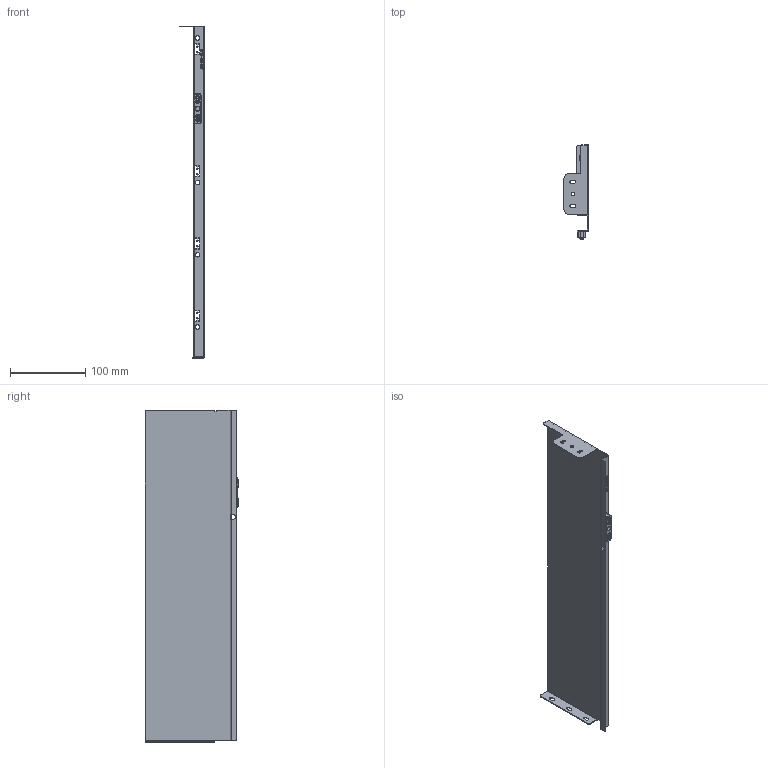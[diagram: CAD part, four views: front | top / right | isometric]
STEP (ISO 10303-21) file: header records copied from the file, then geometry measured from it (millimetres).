
FILE_DESCRIPTION (( 'STEP AP203' ), '1' );
FILE_NAME ('HL12450R.STEP', '2021-07-31T00:37:03', ( 'Users' ), ( 'Microsoft' ), 'SwSTEP 2.0', 'SolidWorks 2018', '' );
FILE_SCHEMA (( 'CONFIG_CONTROL_DESIGN' ));
Length unit declared in the file: millimetre
Products named in the file (1): HL12450R
Bounding box: 32.6 x 124.7 x 441.2 mm (x, y, z)
Volume: 77581.2 mm3; surface area: 128060.9 mm2
Topology: 1 solids, 1 shells, 445 faces, 1212 edges, 786 vertices
Faces by surface type: plane 177, cylinder 163, torus 55, bspline 48, cone 2
Entity records: 16772 total; most frequent: CARTESIAN_POINT 5350, ORIENTED_EDGE 2416, DIRECTION 2347, EDGE_CURVE 1208, AXIS2_PLACEMENT_3D 841, VERTEX_POINT 786, LINE 665, VECTOR 665
